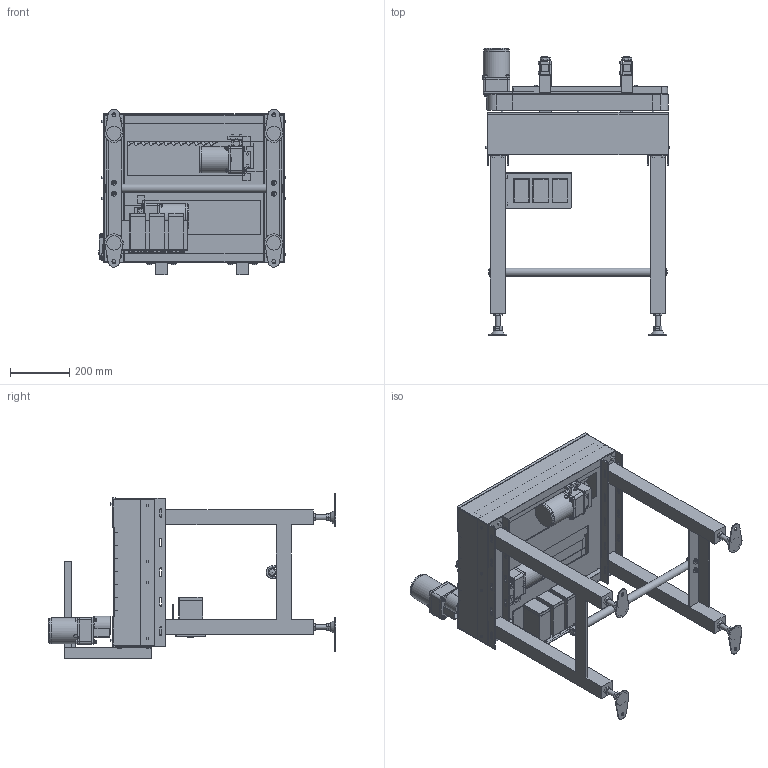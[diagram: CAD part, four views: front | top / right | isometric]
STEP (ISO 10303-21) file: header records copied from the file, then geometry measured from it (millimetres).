
FILE_DESCRIPTION (( 'STEP AP214' ), '1' );
FILE_NAME ('SGA-300-R-A.STEP', '2022-04-12T01:38:03', ( '' ), ( '' ), 'SwSTEP 2.0', 'SolidWorks 2017', '' );
FILE_SCHEMA (( 'AUTOMOTIVE_DESIGN' ));
Length unit declared in the file: millimetre
Products named in the file (18): SWD-UBM540-403-E2+5GN3-18K; SWD-AJ-020(75mm); SWD-SGA-S-郯讜擾300暆; SWD-SGA-S-端囂啞; SK-34-WH; SWD-SGA-S-徊霓娃詭x帩; SWD-UBM540-403-E2+5GN3-18K_t4; SWD-SGA-S-娃敖腾把_300暆; VFD001L21A_WEB図; SWD-SGA-衛動葀杺_590; SWD-SGA-S-脚_300幅; SWD-SGA-S-徊霓娃訽300暆; SWD-SGA-S-原動カバー; SGA-300-R-A; SWD-SGA-S-原動部; SWD-SGA-S-ﾃｰｸｱｯﾌﾟ; SWD-SGA-S-端囂啞枌袡紕; SWD-U-010 Assy_固定板t6
Assembly tree (27 placements, depth 3):
  SGA-300-R-A
    SWD-SGA-S-娃敖腾把_300暆
    SWD-SGA-S-郯讜擾300暆
    SWD-SGA-S-脚_300幅  x2
    SWD-AJ-020(75mm)  x4
    SWD-U-010 Assy_固定板t6  x2
    SWD-SGA-衛動葀杺_590
    SWD-SGA-S-原動部  x2
      SWD-UBM540-403-E2+5GN3-18K_t4
      SWD-SGA-S-原動カバー
      SWD-SGA-S-ﾃｰｸｱｯﾌﾟ
    SWD-SGA-S-端囂啞
      SWD-SGA-S-端囂啞枌袡紕
      VFD001L21A_WEB図  x3
    SWD-SGA-S-徊霓娃詭x帩  x2
    SK-34-WH  x2
    SWD-SGA-S-徊霓娃訽300暆
    SWD-UBM540-403-E2+5GN3-18K
Bounding box: 634.13 x 969.4 x 560 mm (x, y, z)
Volume: 19996836.3 mm3; surface area: 4143345.2 mm2
Topology: 81 solids, 82 shells, 2566 faces, 6349 edges, 4101 vertices
Faces by surface type: plane 1759, cylinder 525, cone 161, bspline 64, torus 34, sphere 23
Full cylindrical faces by diameter (mm): 2 x3, 4.5 x6, 5 x14, 5.5 x3, 6 x34, 6.5 x24, 6.6 x12, 7 x4, 8 x10, 8.49 x3, 9 x8, 10 x12, 10.5 x1, 11.5 x2, 12 x3, 12.2 x2, 12.5 x12, 13 x4, 16 x10, 17 x4, 20 x1, 22 x1, 27.2 x1, 28 x2, 36 x3, 40 x4, 50 x2, 83 x3, 84 x3, 86.3 x3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
Entity records: 56567 total; most frequent: CARTESIAN_POINT 10215, ORIENTED_EDGE 7882, DIRECTION 7834, EDGE_CURVE 3941, LINE 2978, VECTOR 2978, VERTEX_POINT 2671, AXIS2_PLACEMENT_3D 2428
